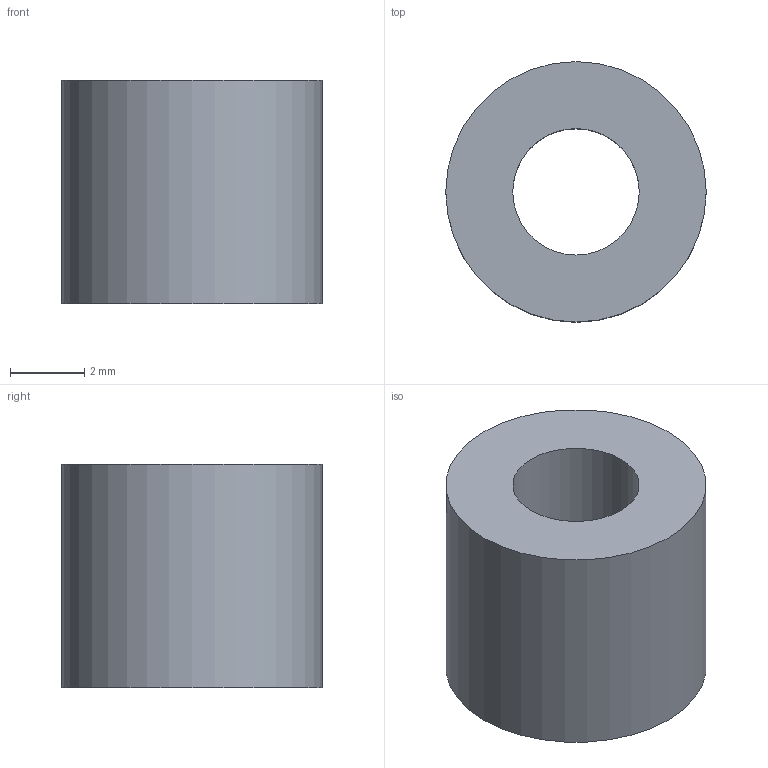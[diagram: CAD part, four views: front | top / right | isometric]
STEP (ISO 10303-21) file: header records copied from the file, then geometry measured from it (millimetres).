
FILE_DESCRIPTION(('Open CASCADE Model'),'2;1');
FILE_NAME('Open CASCADE Shape Model','2026-11-06T11:30:49',('Author'),( 'Open CASCADE'),'Open CASCADE STEP processor 7.8','Open CASCADE 7.8' ,'Unknown');
FILE_SCHEMA(('AUTOMOTIVE_DESIGN { 1 0 10303 214 1 1 1 1 }'));
Length unit declared in the file: millimetre
Products named in the file (1): Open CASCADE STEP translator 7.8 7
Bounding box: 7 x 7 x 6 mm (x, y, z)
Volume: 176.4 mm3; surface area: 254.8 mm2
Topology: 1 solids, 1 shells, 4 faces, 6 edges, 4 vertices
Faces by surface type: cylinder 2, plane 2
Full cylindrical faces by diameter (mm): 3.4 x1, 7 x1
Entity records: 186 total; most frequent: DIRECTION 32, CARTESIAN_POINT 27, ORIENTED_EDGE 12, PCURVE 12, DEFINITIONAL_REPRESENTATION 12, LINE 10, VECTOR 10, AXIS2_PLACEMENT_3D 9
